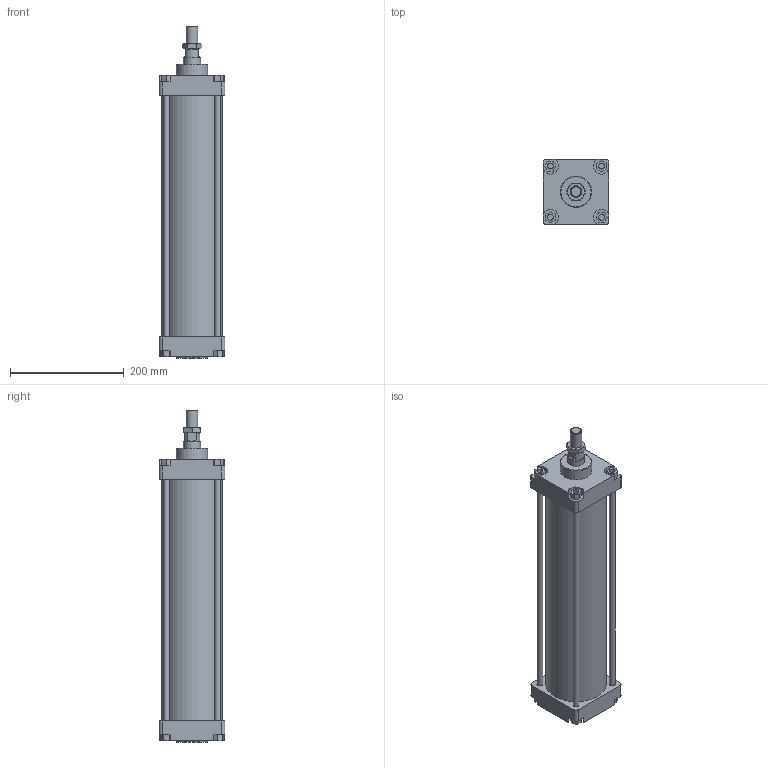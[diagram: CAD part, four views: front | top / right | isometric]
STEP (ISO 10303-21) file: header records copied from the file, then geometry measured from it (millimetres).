
FILE_DESCRIPTION(/* description */ (''),/* implementation_level */ '2;1');
FILE_NAME(/* name */ 'I:\Area Tecnica\Disegni\VARIE-3D\Componenti\CSP\Ø100\130#_100_####_###\130#_100_0350_01A.stp',/* time_stamp */ '2016-11-24T13:51:44+01:00',/* author */ ('Maniean1'),/* organization */ ('Pneumax S.p.A.'),/* preprocessor_version */ 'ST-DEVELOPER v15.2',/* originating_system */ 'Autodesk Inventor 2014',/* authorisation */ '');
FILE_SCHEMA (('AUTOMOTIVE_DESIGN { 1 0 10303 214 3 1 1 }'));
Length unit declared in the file: millimetre
Products named in the file (6): C_130#_100_0350; Testata anteriore_100; Testata posteriore_100; S_130#_100_0350_01A; 130#_100_18F; 130#_100_0350_01A
Bounding box: 115 x 115 x 584 mm (x, y, z)
Volume: 2302503.3 mm3; surface area: 527414.9 mm2
Topology: 9 solids, 9 shells, 162 faces, 380 edges, 249 vertices
Faces by surface type: plane 105, cylinder 42, cone 15
Full cylindrical faces by diameter (mm): 10 x12, 18.376 x1, 18.5 x1, 19 x2, 20 x1, 28 x1, 30 x3, 55 x2, 100 x2, 106 x1
Entity records: 4530 total; most frequent: CARTESIAN_POINT 785, DIRECTION 764, ORIENTED_EDGE 672, EDGE_CURVE 336, AXIS2_PLACEMENT_3D 271, VERTEX_POINT 244, EDGE_LOOP 236, LINE 222
